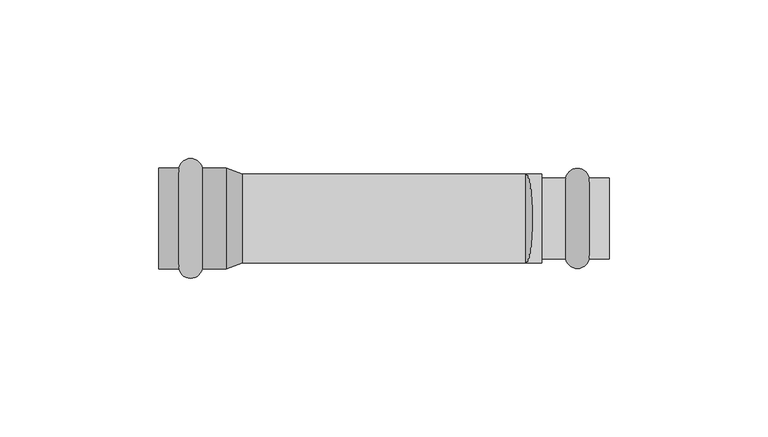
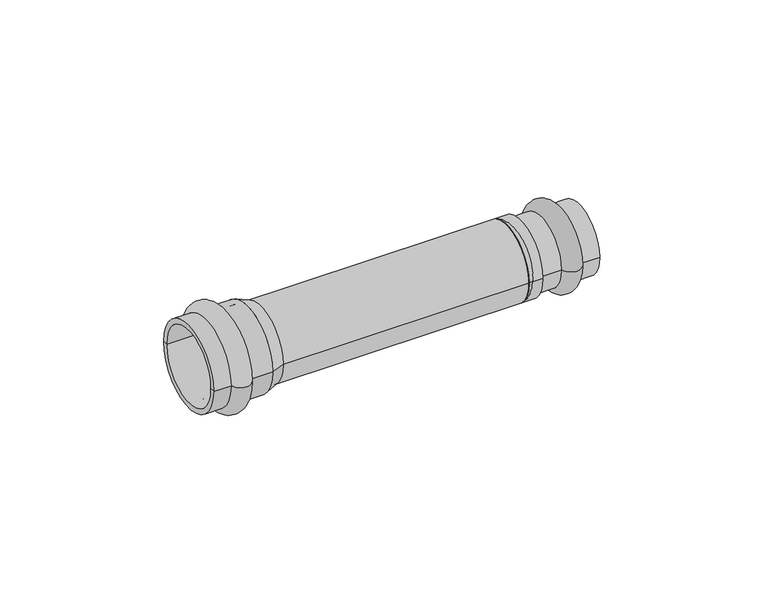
"""IFC4 building model written with IfcOpenShell, lengths in millimetres: pipe fitting geometry, VALTEC_VTi.903.I_Соединитель прямой нержавеющая сталь : VTi.903.I."""

from ifc_helpers import new_model, si_unit, point, frame, origin, origin_2d, place, context, project, spatial, polyline, circle_curve, ellipse_curve, trimmed, segment, composite_curve, outline, extrude, source, transform, mapped, element, save
from ifc_brep_helpers import plane_surface, cylinder_surface, revolved_surface, advanced_brep


def pipe_fitting_ec7adc46(model_context):
    return source(origin(), model_context, "Body", "SolidModel", [
        advanced_brep(
        [(135.6242346, 12.8, 0.0), (135.6242346, -12.8, 0.0), (128.2757654, -12.8, 0.0), (128.2757654, 12.8, 0.0), (142.0, 12.8, 0.0), (142.0, -12.8, 0.0), (142.0, 11.0, 0.0), (142.0, -11.0, 0.0), (120.7, 11.0, 0.0), (120.7, -11.0, 0.0), (120.7, 12.8, 0.0), (120.7, -12.8, 0.0)],
        [
            (0, 1, circle_curve(frame((135.6242346, 0.0, 0.0), z_axis=(-1.0, 0.0, 0.0), x_axis=(0.0, -1.0, 0.0)), 12.8)),
            (1, 2, circle_curve(frame((131.95, -12.05, 0.0), z_axis=(0.0, 0.0, -1.0), x_axis=(-1.0, 0.0, 0.0)), 3.75)),
            (2, 3, circle_curve(frame((128.2757654, 0.0, 0.0), z_axis=(1.0, 0.0, 0.0), x_axis=(0.0, -1.0, 0.0)), 12.8)),
            (3, 0, circle_curve(frame((131.95, 12.05, 0.0), z_axis=(0.0, 0.0, -1.0), x_axis=(-1.0, 0.0, 0.0)), 3.75)),
            (1, 0, circle_curve(frame((135.6242346, 0.0, 0.0), z_axis=(-1.0, 0.0, 0.0), x_axis=(0.0, -1.0, 0.0)), 12.8)),
            (3, 2, circle_curve(frame((128.2757654, 0.0, 0.0), z_axis=(1.0, 0.0, 0.0), x_axis=(0.0, -1.0, 0.0)), 12.8)),
            (4, 5, circle_curve(frame((142.0, 0.0, 0.0), z_axis=(-1.0, 0.0, 0.0), x_axis=(0.0, -1.0, 0.0)), 12.8)),
            (5, 1),
            (0, 4),
            (5, 4, circle_curve(frame((142.0, 0.0, 0.0), z_axis=(-1.0, 0.0, 0.0), x_axis=(0.0, -1.0, 0.0)), 12.8)),
            (6, 7, circle_curve(frame((142.0, 0.0, 0.0), z_axis=(-1.0, 0.0, 0.0), x_axis=(0.0, -1.0, 0.0)), 11.0)),
            (7, 5),
            (4, 6),
            (7, 6, circle_curve(frame((142.0, 0.0, 0.0), z_axis=(-1.0, 0.0, 0.0), x_axis=(0.0, -1.0, 0.0)), 11.0)),
            (8, 9, circle_curve(frame((120.7, 0.0, 0.0), z_axis=(-1.0, 0.0, 0.0), x_axis=(0.0, -1.0, 0.0)), 11.0)),
            (9, 7),
            (6, 8),
            (9, 8, circle_curve(frame((120.7, 0.0, 0.0), z_axis=(-1.0, 0.0, 0.0), x_axis=(0.0, -1.0, 0.0)), 11.0)),
            (10, 11, circle_curve(frame((120.7, 0.0, 0.0), z_axis=(-1.0, 0.0, 0.0), x_axis=(0.0, -1.0, 0.0)), 12.8)),
            (11, 9),
            (8, 10),
            (11, 10, circle_curve(frame((120.7, 0.0, 0.0), z_axis=(-1.0, 0.0, 0.0), x_axis=(0.0, -1.0, 0.0)), 12.8)),
            (2, 11),
            (10, 3),
        ],
        [
            revolved_surface(trimmed(ellipse_curve(frame((131.95, -12.05, 0.0), z_axis=(0.0, 0.0, 1.0), x_axis=(-1.0, 0.0, 0.0)), 3.75, 3.75), [point((128.2757654, -12.8, 0.0))], [point((135.6242346, -12.8, 0.0))], True, "CARTESIAN"), (145.5364426, 0.0, 0.0), (1.0, 0.0, 0.0)),
            cylinder_surface(frame((145.5364426, 0.0, 0.0), z_axis=(1.0, 0.0, 0.0), x_axis=(0.0, -1.0, 0.0)), 12.8),
            plane_surface(frame((142.0, 0.0, 0.0), z_axis=(1.0, 0.0, 0.0), x_axis=(0.0, -1.0, 0.0))),
            revolved_surface(polyline([(142.0, -11.0, 0.0), (120.7, -11.0, 0.0)]), (145.5364426, 0.0, 0.0), (1.0, 0.0, 0.0)),
            plane_surface(frame((120.7, 0.0, 0.0), z_axis=(-1.0, 0.0, 0.0), x_axis=(0.0, -1.0, 0.0))),
        ],
        [
            (0, [[1, 2, 3, 4]]),
            (0, [[5, -4, 6, -2]]),
            (1, [[7, 8, -1, 9]]),
            (1, [[10, -9, -5, -8]]),
            (2, [[11, 12, -7, 13]]),
            (2, [[14, -13, -10, -12]]),
            (3, [[15, 16, -11, 17]]),
            (3, [[18, -17, -14, -16]]),
            (4, [[19, 20, -15, 21]]),
            (4, [[22, -21, -18, -20]]),
            (1, [[-3, 23, -19, 24]]),
            (1, [[-6, -24, -22, -23]]),
        ],
    ),
        advanced_brep(
        [(6.3757654, -15.9, 0.0), (6.3757654, 15.9, 0.0), (13.7242346, 15.9, 0.0), (13.7242346, -15.9, 0.0), (0.0, -15.9, 0.0), (0.0, 15.9, 0.0), (0.0, -14.0, 0.0), (0.0, 14.0, 0.0), (21.3, -14.0, 0.0), (21.3, 14.0, 0.0), (21.3, -15.9, 0.0), (21.3, 15.9, 0.0)],
        [
            (0, 1, circle_curve(frame((6.3757654, 0.0, 0.0), z_axis=(1.0, 0.0, 0.0), x_axis=(0.0, 1.0, 0.0)), 15.9)),
            (1, 2, circle_curve(frame((10.05, 15.15, 0.0), z_axis=(0.0, 0.0, -1.0), x_axis=(1.0, 0.0, 0.0)), 3.75)),
            (2, 3, circle_curve(frame((13.7242346, 0.0, 0.0), z_axis=(-1.0, 0.0, 0.0), x_axis=(0.0, 1.0, 0.0)), 15.9)),
            (3, 0, circle_curve(frame((10.05, -15.15, 0.0), z_axis=(0.0, 0.0, -1.0), x_axis=(1.0, 0.0, 0.0)), 3.75)),
            (1, 0, circle_curve(frame((6.3757654, 0.0, 0.0), z_axis=(1.0, 0.0, 0.0), x_axis=(0.0, 1.0, 0.0)), 15.9)),
            (3, 2, circle_curve(frame((13.7242346, 0.0, 0.0), z_axis=(-1.0, 0.0, 0.0), x_axis=(0.0, 1.0, 0.0)), 15.9)),
            (4, 5, circle_curve(frame((0.0, 0.0, 0.0), z_axis=(1.0, 0.0, 0.0), x_axis=(0.0, 1.0, 0.0)), 15.9)),
            (5, 1),
            (0, 4),
            (5, 4, circle_curve(frame((0.0, 0.0, 0.0), z_axis=(1.0, 0.0, 0.0), x_axis=(0.0, 1.0, 0.0)), 15.9)),
            (6, 7, circle_curve(frame((0.0, 0.0, 0.0), z_axis=(1.0, 0.0, 0.0), x_axis=(0.0, 1.0, 0.0)), 14.0)),
            (7, 5),
            (4, 6),
            (7, 6, circle_curve(frame((0.0, 0.0, 0.0), z_axis=(1.0, 0.0, 0.0), x_axis=(0.0, 1.0, 0.0)), 14.0)),
            (8, 9, circle_curve(frame((21.3, 0.0, 0.0), z_axis=(1.0, 0.0, 0.0), x_axis=(0.0, 1.0, 0.0)), 14.0)),
            (9, 7),
            (6, 8),
            (9, 8, circle_curve(frame((21.3, 0.0, 0.0), z_axis=(1.0, 0.0, 0.0), x_axis=(0.0, 1.0, 0.0)), 14.0)),
            (10, 11, circle_curve(frame((21.3, 0.0, 0.0), z_axis=(1.0, 0.0, 0.0), x_axis=(0.0, 1.0, 0.0)), 15.9)),
            (11, 9),
            (8, 10),
            (11, 10, circle_curve(frame((21.3, 0.0, 0.0), z_axis=(1.0, 0.0, 0.0), x_axis=(0.0, 1.0, 0.0)), 15.9)),
            (2, 11),
            (10, 3),
        ],
        [
            revolved_surface(trimmed(ellipse_curve(frame((10.05, 15.15, 0.0), z_axis=(0.0, 0.0, 1.0), x_axis=(1.0, 0.0, 0.0)), 3.75, 3.75), [point((13.7242346, 15.9, 0.0))], [point((6.3757654, 15.9, 0.0))], True, "CARTESIAN"), (-3.5364426, 0.0, 0.0), (-1.0, 0.0, 0.0)),
            cylinder_surface(frame((-3.5364426, 0.0, 0.0), z_axis=(-1.0, 0.0, 0.0), x_axis=(0.0, 1.0, 0.0)), 15.9),
            plane_surface(frame((0.0, 0.0, 0.0), z_axis=(-1.0, 0.0, 0.0), x_axis=(0.0, 1.0, 0.0))),
            revolved_surface(polyline([(0.0, 14.0, 0.0), (21.3, 14.0, 0.0)]), (-3.5364426, 0.0, 0.0), (-1.0, 0.0, 0.0)),
            plane_surface(frame((21.3, 0.0, 0.0), z_axis=(1.0, 0.0, 0.0), x_axis=(0.0, 1.0, 0.0))),
        ],
        [
            (0, [[1, 2, 3, 4]]),
            (0, [[5, -4, 6, -2]]),
            (1, [[7, 8, -1, 9]]),
            (1, [[10, -9, -5, -8]]),
            (2, [[11, 12, -7, 13]]),
            (2, [[14, -13, -10, -12]]),
            (3, [[15, 16, -11, 17]]),
            (3, [[18, -17, -14, -16]]),
            (4, [[19, 20, -15, 21]]),
            (4, [[22, -21, -18, -20]]),
            (1, [[-3, 23, -19, 24]]),
            (1, [[-6, -24, -22, -23]]),
        ],
    ),
        advanced_brep(
        [(21.3, -15.9, 0.0), (21.3, 15.9, 0.0), (26.27, -14.0, 0.0), (26.27, 14.0, 0.0)],
        [
            (0, 1, circle_curve(frame((21.3, 0.0, 0.0), z_axis=(-1.0, 0.0, 0.0), x_axis=(0.0, -1.0, 0.0)), 15.9)),
            (1, 0, circle_curve(frame((21.3, 0.0, 0.0), z_axis=(-1.0, 0.0, 0.0), x_axis=(0.0, 1.0, 0.0)), 15.9)),
            (2, 3, circle_curve(frame((26.27, 0.0, 0.0), z_axis=(1.0, 0.0, 0.0), x_axis=(0.0, 1.0, 0.0)), 14.0)),
            (3, 2, circle_curve(frame((26.27, 0.0, 0.0), z_axis=(1.0, 0.0, 0.0), x_axis=(0.0, -1.0, 0.0)), 14.0)),
            (2, 0),
            (1, 3),
        ],
        [
            plane_surface(frame((21.3, 0.0, 0.0), z_axis=(-1.0, 0.0, 0.0), x_axis=(0.0, 0.0, 1.0))),
            plane_surface(frame((26.27, 0.0, 0.0), z_axis=(1.0, 0.0, 0.0), x_axis=(0.0, 0.0, 1.0))),
            revolved_surface(polyline([(26.270000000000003, -13.999999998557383, 0.0), (21.300000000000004, -15.9, 0.0)]), (62.8910526, 0.0, 0.0), (-1.0, 0.0, 0.0)),
            revolved_surface(polyline([(26.270000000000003, 13.999999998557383, 0.0), (21.300000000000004, 15.9, 0.0)]), (62.8910526, 0.0, 0.0), (-1.0, 0.0, 0.0)),
        ],
        [
            (0, [[1, 2]]),
            (1, [[3, 4]]),
            (2, [[-3, 5, -2, 6]]),
            (3, [[-4, -6, -1, -5]]),
        ],
    ),
        advanced_brep(
        [(120.7, -12.8, 0.0), (120.7, 12.8, 0.0), (115.73, -14.0, 0.0), (115.73, 14.0, 0.0)],
        [
            (0, 1, circle_curve(frame((120.7, 0.0, 0.0), z_axis=(1.0, 0.0, 0.0), x_axis=(0.0, -1.0, 0.0)), 12.8)),
            (1, 0, circle_curve(frame((120.7, 0.0, 0.0), z_axis=(1.0, 0.0, 0.0), x_axis=(0.0, 1.0, 0.0)), 12.8)),
            (2, 3, circle_curve(frame((115.73, 0.0, 0.0), z_axis=(-1.0, 0.0, 0.0), x_axis=(0.0, 1.0, 0.0)), 14.0)),
            (3, 2, circle_curve(frame((115.73, 0.0, 0.0), z_axis=(-1.0, 0.0, 0.0), x_axis=(0.0, -1.0, 0.0)), 14.0)),
            (3, 1),
            (0, 2),
        ],
        [
            plane_surface(frame((120.7, 0.0, 0.0), z_axis=(1.0, 0.0, 0.0), x_axis=(0.0, 0.0, -1.0))),
            plane_surface(frame((115.73, 0.0, 0.0), z_axis=(-1.0, 0.0, 0.0), x_axis=(0.0, 0.0, -1.0))),
            revolved_surface(polyline([(120.7, -12.799999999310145, 0.0), (115.73, -14.0, 0.0)]), (173.7133333, 0.0, 0.0), (-1.0, 0.0, 0.0)),
            revolved_surface(polyline([(120.7, 12.799999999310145, 0.0), (115.73, 14.0, 0.0)]), (173.7133333, 0.0, 0.0), (-1.0, 0.0, 0.0)),
        ],
        [
            (0, [[1, 2]]),
            (1, [[3, 4]]),
            (2, [[-4, 5, -1, 6]]),
            (3, [[-3, -6, -2, -5]]),
        ],
    ),
        extrude(outline(composite_curve([segment(trimmed(circle_curve(origin_2d(), 14.0), [point((-14.0, 0.0))], [point((14.0, 0.0))], False, "CARTESIAN"), True, "CONTINUOUS"), segment(trimmed(circle_curve(origin_2d(), 14.0), [point((14.0, 0.0))], [point((-14.0, 0.0))], False, "CARTESIAN"), True, "CONTINUOUS")], self_intersect=False)), frame((21.3, 0.0, 0.0), z_axis=(1.0, 0.0, 0.0), x_axis=(0.0, 1.0, 0.0)), (0.0, 0.0, 1.0), 99.4),
    ])


if __name__ == "__main__":
    model = new_model("IFC4")
    model_context = context("Model", 3, world=origin())
    ifc_project = project(units=[si_unit("LENGTHUNIT", "METRE", prefix="MILLI")], contexts=[model_context])
    site = spatial("IfcSite", under=ifc_project)
    building = spatial("IfcBuilding", under=site)
    placement = place(None, origin())
    pipe_fitting_shape = pipe_fitting_ec7adc46(model_context)
    element("IfcPipeFitting", 1, ObjectType="VALTEC_VTi.903.I_Соединитель прямой нержавеющая сталь : VTi.903.I", at=placement, inside=building, context=model_context, shape_type="MappedRepresentation", body=[
        mapped(pipe_fitting_shape, transform((0.0, 0.0, 0.0), x_axis=(1.0, 0.0, 0.0), y_axis=(0.0, 1.0, 0.0), z_axis=(0.0, 0.0, 1.0))),
    ])
    save(model, "model.ifc")
